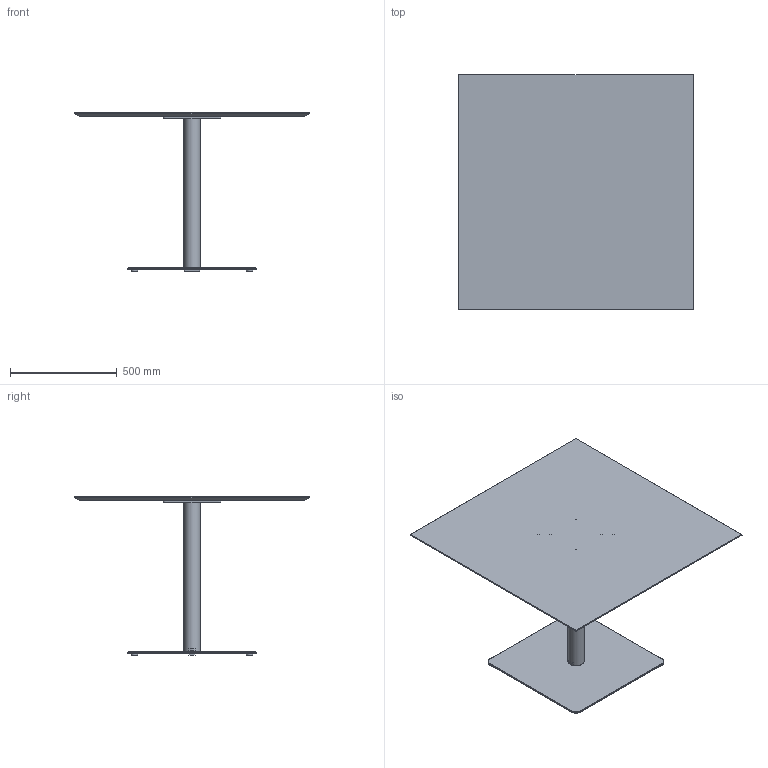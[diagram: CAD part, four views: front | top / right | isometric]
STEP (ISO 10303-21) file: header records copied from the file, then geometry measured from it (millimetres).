
FILE_DESCRIPTION( ('This file contains a STEP AP42 implementation' ,'as created by ZW3D STEP Interface translator.') ,'2;1' );
FILE_NAME( 'Henri - B_Carré - F4 - M5 - 1100 x 1100 x 750.stp' ,'24 912.174123', (''), ('ZWCAD Software Co.'), 'Version 1.0', 'ZW3D to STEP translator', '' );
FILE_SCHEMA(('AUTOMOTIVE_DESIGN { 1 0 10303 214 1 1 1 1 }'));
Length unit declared in the file: millimetre
Products named in the file (14): 0; PIED BISTROT PARAMETRIQUE_; COLONNE ACIER Ø76 V.02_; TUB-D076-02_; PLA-R76B-01_; CROIX ACIER 370 V.02_; CRX-X370-02_; SOCLE ACIER L 600x600 V.02_; SCL-R600-02_; PLA-R30A-01_; PLA-R30A-01; WUERTH 0276063020 Euro-screw 6.3x2 Verzinkt_; PLATEAU BISTROT PARAMETRIQUE_; insert_m6_13_
Assembly tree (22 placements, depth 3):
  0
  PIED BISTROT PARAMETRIQUE_
    COLONNE ACIER Ø76 V.02_
      TUB-D076-02_
      PLA-R76B-01_  x2
    CROIX ACIER 370 V.02_
      CRX-X370-02_
    SOCLE ACIER L 600x600 V.02_
      SCL-R600-02_
      PLA-R30A-01_
      PLA-R30A-01  x3
    WUERTH 0276063020 Euro-screw 6.3x2 Verzinkt_
    PLATEAU BISTROT PARAMETRIQUE_
      insert_m6_13_  x8
Bounding box: 1100 x 1100 x 744 mm (x, y, z)
Volume: 27162414.1 mm3; surface area: 3711797.4 mm2
Topology: 19 solids, 19 shells, 533 faces, 1306 edges, 818 vertices
Faces by surface type: plane 262, bspline 125, cylinder 98, cone 47, torus 1
Full cylindrical faces by diameter (mm): 4.88 x1, 6 x8, 6.3 x1, 8 x45, 12 x2, 14 x2, 30 x4, 72 x1, 76 x1
Entity records: 12210 total; most frequent: CARTESIAN_POINT 3408, ORIENTED_EDGE 1608, DIRECTION 1483, EDGE_CURVE 804, VERTEX_POINT 514, VECTOR 509, LINE 509, AXIS2_PLACEMENT_3D 487
